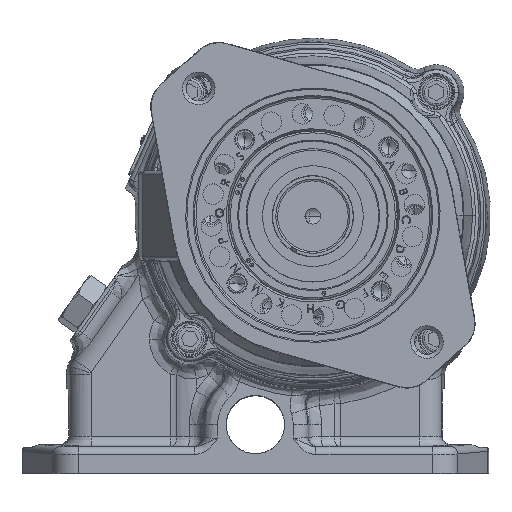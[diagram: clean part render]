
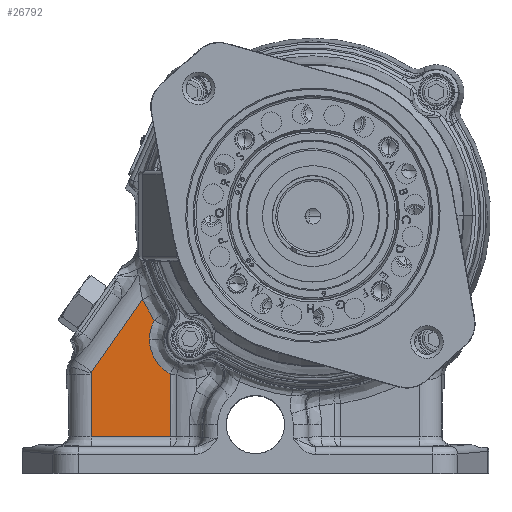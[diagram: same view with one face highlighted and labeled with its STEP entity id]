
A CAD part, top view. The second image highlights one B-rep face of the part: STEP entity #26792.
In plain terms, the highlighted planar face has unit normal (0, 0, 1).
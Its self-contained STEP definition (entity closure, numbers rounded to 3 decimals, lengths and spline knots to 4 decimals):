
#3430 = CARTESIAN_POINT ( 'NONE',  ( -2.7136, 0.835, 1.3875 ) ) ;
#5431 = ORIENTED_EDGE ( 'NONE', *, *, #55625, .T. ) ;
#5823 = VERTEX_POINT ( 'NONE', #42505 ) ;
#6263 = EDGE_CURVE ( 'NONE', #102180, #5823, #10968, .T. ) ;
#6654 = EDGE_CURVE ( 'NONE', #23399, #57248, #64074, .T. ) ;
#8437 = CARTESIAN_POINT ( 'NONE',  ( -1.6997, -0.0043, 1.3875 ) ) ;
#8915 = ORIENTED_EDGE ( 'NONE', *, *, #125391, .T. ) ;
#9681 = CARTESIAN_POINT ( 'NONE',  ( -2.1431, 0.1699, 1.3875 ) ) ;
#10356 = EDGE_CURVE ( 'NONE', #57248, #5823, #90859, .T. ) ;
#10968 = B_SPLINE_CURVE_WITH_KNOTS ( 'NONE', 3,
 ( #86925, #106696, #38418, #125842 ),
 .UNSPECIFIED., .F., .F.,
 ( 4, 4 ),
 ( 0., 1. ),
 .UNSPECIFIED. ) ;
#11457 = B_SPLINE_CURVE_WITH_KNOTS ( 'NONE', 3,
 ( #68810, #98771, #27942, #115397, #59256, #79011 ),
 .UNSPECIFIED., .F., .F.,
 ( 4, 2, 4 ),
 ( 0., 0.5, 1. ),
 .UNSPECIFIED. ) ;
#12058 = ORIENTED_EDGE ( 'NONE', *, *, #18292, .T. ) ;
#18292 = EDGE_CURVE ( 'NONE', #77371, #62719, #63806, .T. ) ;
#18342 = EDGE_LOOP ( 'NONE', ( #50995, #53564, #44411, #12058, #8915, #41310, #50007, #115625, #5431 ) ) ;
#18501 = VECTOR ( 'NONE', #53852, 39.3701 ) ;
#18677 = CARTESIAN_POINT ( 'NONE',  ( -1.8435, 0.0138, 1.3875 ) ) ;
#19123 = CARTESIAN_POINT ( 'NONE',  ( -2.366, 0.6387, 1.3875 ) ) ;
#23399 = VERTEX_POINT ( 'NONE', #45710 ) ;
#26639 = VECTOR ( 'NONE', #111328, 39.3701 ) ;
#26792 = ADVANCED_FACE ( 'NONE', ( #79800 ), #70840, .T. ) ;
#26806 = LINE ( 'NONE', #64512, #97642 ) ;
#27942 = CARTESIAN_POINT ( 'NONE',  ( -2.322, 0.4241, 1.3875 ) ) ;
#28208 = CARTESIAN_POINT ( 'NONE',  ( -2.1599, 0.1856, 1.3875 ) ) ;
#29477 = CARTESIAN_POINT ( 'NONE',  ( -1.8327, 0.0114, 1.3875 ) ) ;
#37786 = CARTESIAN_POINT ( 'NONE',  ( -1.9051, 0.0283, 1.3875 ) ) ;
#38418 = CARTESIAN_POINT ( 'NONE',  ( -2.8239, -0.6554, 1.3875 ) ) ;
#38901 = CARTESIAN_POINT ( 'NONE',  ( -2.7136, 0.835, 1.3875 ) ) ;
#40227 = DIRECTION ( 'NONE',  ( -0.512, 0.859, 0. ) ) ;
#40485 = VECTOR ( 'NONE', #41426, 39.3701 ) ;
#41310 = ORIENTED_EDGE ( 'NONE', *, *, #6654, .T. ) ;
#41426 = DIRECTION ( 'NONE',  ( 0.859, 0.512, 0. ) ) ;
#42505 = CARTESIAN_POINT ( 'NONE',  ( -2.8233, -0.6483, 1.3875 ) ) ;
#43047 = VERTEX_POINT ( 'NONE', #65530 ) ;
#43996 = CARTESIAN_POINT ( 'NONE',  ( -2.82, -0.6765, 1.3875 ) ) ;
#44411 = ORIENTED_EDGE ( 'NONE', *, *, #73915, .T. ) ;
#44761 = AXIS2_PLACEMENT_3D ( 'NONE', #97658, #109760, #40227 ) ;
#45710 = CARTESIAN_POINT ( 'NONE',  ( -2.366, 0.6387, 1.3875 ) ) ;
#50007 = ORIENTED_EDGE ( 'NONE', *, *, #10356, .T. ) ;
#50931 = CARTESIAN_POINT ( 'NONE',  ( -2.7136, 0.835, 1.3875 ) ) ;
#50995 = ORIENTED_EDGE ( 'NONE', *, *, #79829, .F. ) ;
#51621 = CARTESIAN_POINT ( 'NONE',  ( 0.9372, 0.319, 1.3875 ) ) ;
#53564 = ORIENTED_EDGE ( 'NONE', *, *, #97199, .T. ) ;
#53852 = DIRECTION ( 'NONE',  ( -0.074, -0.997, 0. ) ) ;
#55625 = EDGE_CURVE ( 'NONE', #102180, #83668, #97715, .T. ) ;
#56324 = CARTESIAN_POINT ( 'NONE',  ( -2.0813, 0.1191, 1.3875 ) ) ;
#57248 = VERTEX_POINT ( 'NONE', #50931 ) ;
#57603 = CARTESIAN_POINT ( 'NONE',  ( -2.2414, 0.2757, 1.3875 ) ) ;
#58869 = CARTESIAN_POINT ( 'NONE',  ( -1.8418, 0.0134, 1.3875 ) ) ;
#59256 = CARTESIAN_POINT ( 'NONE',  ( -2.3633, 0.5836, 1.3875 ) ) ;
#60968 = LINE ( 'NONE', #99872, #26639 ) ;
#61504 = CARTESIAN_POINT ( 'NONE',  ( -1.6701, -0.0034, 1.3875 ) ) ;
#62719 = VERTEX_POINT ( 'NONE', #89148 ) ;
#63806 = B_SPLINE_CURVE_WITH_KNOTS ( 'NONE', 3,
 ( #76110, #8437, #68435, #97123, #115646, #29477, #115027, #58869, #18677, #37786, #125848, #86312, #56324, #76722, #9681, #125227, #66522, #28208, #65911, #87582, #57603, #106702 ),
 .UNSPECIFIED., .F., .F.,
 ( 4, 1, 1, 1, 1, 2, 2, 2, 1, 1, 1, 1, 2, 2, 4 ),
 ( 0., 0.125, 0.1875, 0.2187, 0.2344, 0.2422, 0.25, 0.5, 0.625, 0.6875, 0.7187, 0.7344, 0.7422, 0.75, 1. ),
 .UNSPECIFIED. ) ;
#64074 = B_SPLINE_CURVE_WITH_KNOTS ( 'NONE', 3,
 ( #19123, #126331, #116760, #38901 ),
 .UNSPECIFIED., .F., .F.,
 ( 4, 4 ),
 ( 0., 1. ),
 .UNSPECIFIED. ) ;
#64512 = CARTESIAN_POINT ( 'NONE',  ( -3.0352, 2.2894, 1.3875 ) ) ;
#65530 = CARTESIAN_POINT ( 'NONE',  ( -1.1294, -0.9114, 1.3875 ) ) ;
#65911 = CARTESIAN_POINT ( 'NONE',  ( -2.1613, 0.187, 1.3875 ) ) ;
#66522 = CARTESIAN_POINT ( 'NONE',  ( -2.1571, 0.1829, 1.3875 ) ) ;
#68435 = CARTESIAN_POINT ( 'NONE',  ( -1.7438, -0.0027, 1.3875 ) ) ;
#68810 = CARTESIAN_POINT ( 'NONE',  ( -2.2717, 0.3266, 1.3875 ) ) ;
#70163 = LINE ( 'NONE', #51621, #40485 ) ;
#70840 = PLANE ( 'NONE',  #44761 ) ;
#73915 = EDGE_CURVE ( 'NONE', #43047, #77371, #26806, .T. ) ;
#76110 = CARTESIAN_POINT ( 'NONE',  ( -1.6701, -0.0034, 1.3875 ) ) ;
#76722 = CARTESIAN_POINT ( 'NONE',  ( -2.123, 0.1522, 1.3875 ) ) ;
#77371 = VERTEX_POINT ( 'NONE', #61504 ) ;
#79011 = CARTESIAN_POINT ( 'NONE',  ( -2.366, 0.6387, 1.3875 ) ) ;
#79800 = FACE_OUTER_BOUND ( 'NONE', #18342, .T. ) ;
#79829 = EDGE_CURVE ( 'NONE', #122356, #83668, #60968, .T. ) ;
#82310 = CARTESIAN_POINT ( 'NONE',  ( -2.8217, -0.6695, 1.3875 ) ) ;
#83047 = DIRECTION ( 'NONE',  ( -0.512, 0.859, 0. ) ) ;
#83668 = VERTEX_POINT ( 'NONE', #123233 ) ;
#86312 = CARTESIAN_POINT ( 'NONE',  ( -2.0428, 0.0944, 1.3875 ) ) ;
#86925 = CARTESIAN_POINT ( 'NONE',  ( -2.8217, -0.6695, 1.3875 ) ) ;
#87582 = CARTESIAN_POINT ( 'NONE',  ( -2.205, 0.2296, 1.3875 ) ) ;
#89148 = CARTESIAN_POINT ( 'NONE',  ( -2.2717, 0.3266, 1.3875 ) ) ;
#90859 = LINE ( 'NONE', #3430, #18501 ) ;
#96881 = CARTESIAN_POINT ( 'NONE',  ( -2.2752, -1.5936, 1.3875 ) ) ;
#97123 = CARTESIAN_POINT ( 'NONE',  ( -1.7947, 0.0041, 1.3875 ) ) ;
#97199 = EDGE_CURVE ( 'NONE', #122356, #43047, #70163, .T. ) ;
#97642 = VECTOR ( 'NONE', #83047, 39.3701 ) ;
#97658 = CARTESIAN_POINT ( 'NONE',  ( -0.9685, 3.5199, 1.3875 ) ) ;
#97715 = B_SPLINE_CURVE_WITH_KNOTS ( 'NONE', 3,
 ( #82310, #43996, #110996, #120601 ),
 .UNSPECIFIED., .F., .F.,
 ( 4, 4 ),
 ( 0., 1. ),
 .UNSPECIFIED. ) ;
#98771 = CARTESIAN_POINT ( 'NONE',  ( -2.2999, 0.374, 1.3875 ) ) ;
#99872 = CARTESIAN_POINT ( 'NONE',  ( -4.181, 1.6073, 1.3875 ) ) ;
#102180 = VERTEX_POINT ( 'NONE', #102763 ) ;
#102763 = CARTESIAN_POINT ( 'NONE',  ( -2.8217, -0.6695, 1.3875 ) ) ;
#106696 = CARTESIAN_POINT ( 'NONE',  ( -2.8233, -0.6626, 1.3875 ) ) ;
#106702 = CARTESIAN_POINT ( 'NONE',  ( -2.2717, 0.3266, 1.3875 ) ) ;
#109760 = DIRECTION ( 'NONE',  ( 0., 0., 1. ) ) ;
#110996 = CARTESIAN_POINT ( 'NONE',  ( -2.8173, -0.6831, 1.3875 ) ) ;
#111328 = DIRECTION ( 'NONE',  ( -0.512, 0.859, 0. ) ) ;
#115027 = CARTESIAN_POINT ( 'NONE',  ( -1.8382, 0.0126, 1.3875 ) ) ;
#115397 = CARTESIAN_POINT ( 'NONE',  ( -2.3539, 0.5297, 1.3875 ) ) ;
#115625 = ORIENTED_EDGE ( 'NONE', *, *, #6263, .F. ) ;
#115646 = CARTESIAN_POINT ( 'NONE',  ( -1.8201, 0.0088, 1.3875 ) ) ;
#116760 = CARTESIAN_POINT ( 'NONE',  ( -2.6018, 0.7623, 1.3875 ) ) ;
#120601 = CARTESIAN_POINT ( 'NONE',  ( -2.8137, -0.6892, 1.3875 ) ) ;
#122356 = VERTEX_POINT ( 'NONE', #96881 ) ;
#123233 = CARTESIAN_POINT ( 'NONE',  ( -2.8137, -0.6892, 1.3875 ) ) ;
#125227 = CARTESIAN_POINT ( 'NONE',  ( -2.1529, 0.179, 1.3875 ) ) ;
#125391 = EDGE_CURVE ( 'NONE', #62719, #23399, #11457, .T. ) ;
#125842 = CARTESIAN_POINT ( 'NONE',  ( -2.8233, -0.6483, 1.3875 ) ) ;
#125848 = CARTESIAN_POINT ( 'NONE',  ( -1.962, 0.0501, 1.3875 ) ) ;
#126331 = CARTESIAN_POINT ( 'NONE',  ( -2.486, 0.6969, 1.3875 ) ) ;
